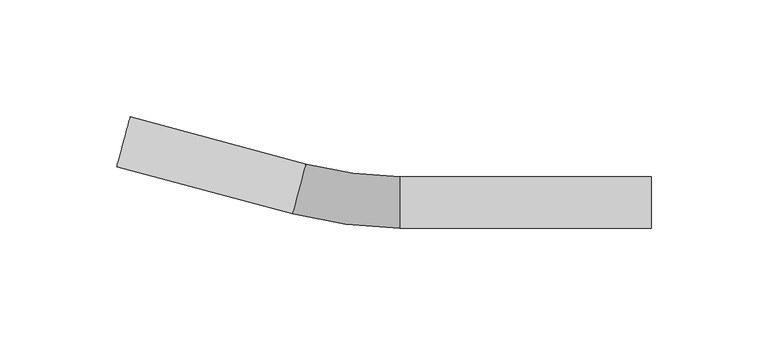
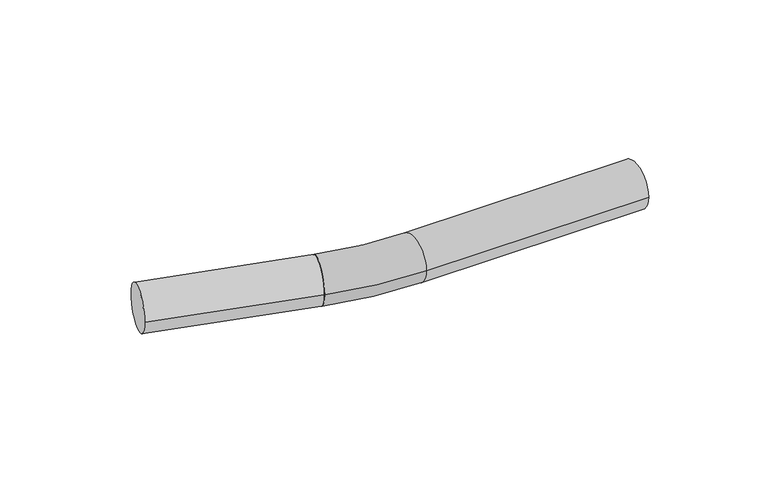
"""IFC4 building model written with IfcOpenShell, lengths in millimetres: pipe fitting geometry, VALTEC_VTi.955.I_Отвод безраструбный_нержавеющая : VTi.955.I."""

from ifc_helpers import new_model, si_unit, point, frame, origin, origin_2d, place, context, project, spatial, circle_curve, ellipse_curve, trimmed, segment, composite_curve, outline, extrude, source, transform, mapped, element, save
from ifc_brep_helpers import plane_surface, revolved_surface, advanced_brep


def pipe_fitting_583d7f2f(model_context):
    return source(origin(), model_context, "Body", "SolidModel", [
        advanced_brep(
        [(21.6, -11.0, 0.0), (21.6, 11.0, 0.0), (-24.210971, -4.9688713, 0.0), (-18.516952, 16.2814969, 0.0)],
        [
            (0, 1, circle_curve(frame((21.6, 0.0, 0.0), z_axis=(1.0, 0.0, 0.0), x_axis=(0.0, 1.0, 0.0)), 11.0)),
            (1, 0, circle_curve(frame((21.6, 0.0, 0.0), z_axis=(1.0, 0.0, 0.0), x_axis=(0.0, 1.0, 0.0)), 11.0)),
            (2, 3, circle_curve(frame((-21.3639615, 5.6563128, 0.0), z_axis=(-0.9659258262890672, 0.2588190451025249, 0.0), x_axis=(0.2588190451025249, 0.9659258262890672, 0.0)), 11.0)),
            (3, 2, circle_curve(frame((-21.3639615, 5.6563128, 0.0), z_axis=(-0.9659258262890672, 0.2588190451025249, 0.0), x_axis=(0.2588190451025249, 0.9659258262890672, 0.0)), 11.0)),
            (2, 0, circle_curve(frame((21.6, 166.0, 0.0), z_axis=(0.0, 0.0, 1.0), x_axis=(0.0, -1.0, 0.0)), 177.0)),
            (1, 3, circle_curve(frame((21.6, 166.0, 0.0), z_axis=(0.0, 0.0, -1.0), x_axis=(0.0, -1.0, 0.0)), 155.0)),
        ],
        [
            plane_surface(frame((21.6, 0.0, 0.0), z_axis=(1.0, 0.0, 0.0), x_axis=(0.0, 0.0, 1.0))),
            plane_surface(frame((-21.3639615, 5.6563128, 0.0), z_axis=(-0.9659258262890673, 0.2588190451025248, 0.0), x_axis=(0.0, 0.0, 1.0))),
            revolved_surface(trimmed(ellipse_curve(frame((21.6, 0.0, 0.0), z_axis=(-1.0, 0.0, 0.0), x_axis=(0.0, 1.0, 0.0)), 11.0, 11.0), [point((21.6, -11.0, 0.0))], [point((21.6, 11.0, 0.0))], True, "CARTESIAN"), (21.6, 166.0, 0.0), (0.0, 0.0, 1.0)),
            revolved_surface(trimmed(ellipse_curve(frame((21.6, 0.0, 0.0), z_axis=(-1.0, 0.0, 0.0), x_axis=(0.0, 1.0, 0.0)), 11.0, 11.0), [point((21.6, 11.0, 0.0))], [point((21.6, -11.0, 0.0))], True, "CARTESIAN"), (21.6, 166.0, 0.0), (0.0, 0.0, 1.0)),
        ],
        [
            (0, [[1, 2]]),
            (1, [[3, 4]]),
            (2, [[-3, 5, -2, 6]]),
            (3, [[-4, -6, -1, -5]]),
        ],
    ),
        extrude(outline(composite_curve([segment(trimmed(circle_curve(origin_2d(), 11.0), [point((0.0, 11.0))], [point((0.0, -11.0))], False, "CARTESIAN"), True, "CONTINUOUS"), segment(trimmed(circle_curve(origin_2d(), 11.0), [point((0.0, -11.0))], [point((0.0, 11.0))], False, "CARTESIAN"), True, "CONTINUOUS")], self_intersect=False)), frame((-21.3469608, 5.7199009, 0.0), z_axis=(-0.9659258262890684, 0.25881904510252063, 0.0), x_axis=(0.0, 0.0, 1.0)), (0.0, 0.0, 1.0), 77.9),
        extrude(outline(composite_curve([segment(trimmed(circle_curve(origin_2d(), 11.0), [point((11.0, 0.0))], [point((-11.0, 0.0))], False, "CARTESIAN"), True, "CONTINUOUS"), segment(trimmed(circle_curve(origin_2d(), 11.0), [point((-11.0, 0.0))], [point((11.0, 0.0))], False, "CARTESIAN"), True, "CONTINUOUS")], self_intersect=False)), frame((21.6, 0.0, 0.0), z_axis=(1.0, 0.0, 0.0), x_axis=(0.0, 1.0, 0.0)), (0.0, 0.0, 1.0), 107.4),
    ])


if __name__ == "__main__":
    model = new_model("IFC4")
    model_context = context("Model", 3, world=origin())
    ifc_project = project(units=[si_unit("LENGTHUNIT", "METRE", prefix="MILLI")], contexts=[model_context])
    site = spatial("IfcSite", under=ifc_project)
    building = spatial("IfcBuilding", under=site)
    placement = place(None, origin())
    pipe_fitting_shape = pipe_fitting_583d7f2f(model_context)
    element("IfcPipeFitting", 1, ObjectType="VALTEC_VTi.955.I_Отвод безраструбный_нержавеющая : VTi.955.I", at=placement, inside=building, context=model_context, shape_type="MappedRepresentation", body=[
        mapped(pipe_fitting_shape, transform((0.0, 0.0, 0.0), x_axis=(1.0, 0.0, 0.0), y_axis=(0.0, 1.0, 0.0), z_axis=(0.0, 0.0, 1.0))),
    ])
    save(model, "model.ifc")
